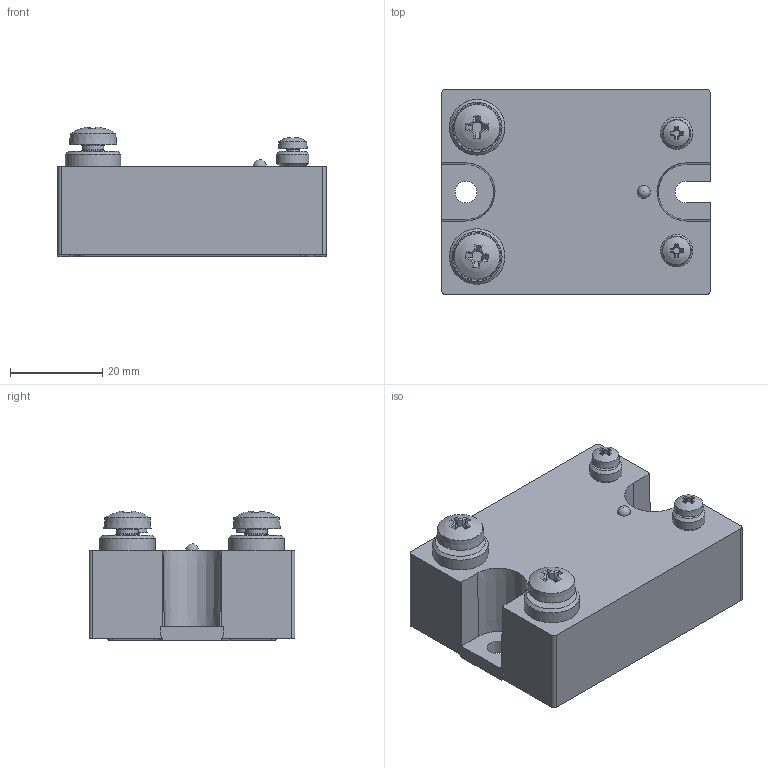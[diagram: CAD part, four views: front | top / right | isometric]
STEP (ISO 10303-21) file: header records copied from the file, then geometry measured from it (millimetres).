
FILE_DESCRIPTION(/* description */ (''),/* implementation_level */ '2;1');
FILE_NAME(/* name */ 'C:\Vault_local\Designs\Stock\3D pour clients\2D3D 500\2D3D 559 C.stp',/* time_stamp */ '2018-06-20T09:06:45+02:00',/* author */ ('fbros'),/* organization */ (''),/* preprocessor_version */ 'ST-DEVELOPER v15.2',/* originating_system */ 'Autodesk Inventor 2014',/* authorisation */ '');
FILE_SCHEMA (('CONFIG_CONTROL_DESIGN'));
Length unit declared in the file: millimetre
Products named in the file (1): SC M3 M5
Bounding box: 58.06 x 44.5 x 28 mm (x, y, z)
Volume: 47566.9 mm3; surface area: 10726.1 mm2
Topology: 1 solids, 1 shells, 218 faces, 600 edges, 396 vertices
Faces by surface type: plane 119, cone 72, cylinder 14, sphere 5, torus 4, bspline 4
Full cylindrical faces by diameter (mm): 2.75 x2, 3 x2, 4.6 x2, 4.7 x1, 5 x2, 7 x2, 12 x2
Entity records: 6911 total; most frequent: CARTESIAN_POINT 1361, DIRECTION 1102, ORIENTED_EDGE 1098, EDGE_CURVE 549, AXIS2_PLACEMENT_3D 418, VERTEX_POINT 381, EDGE_LOOP 268, LINE 266
